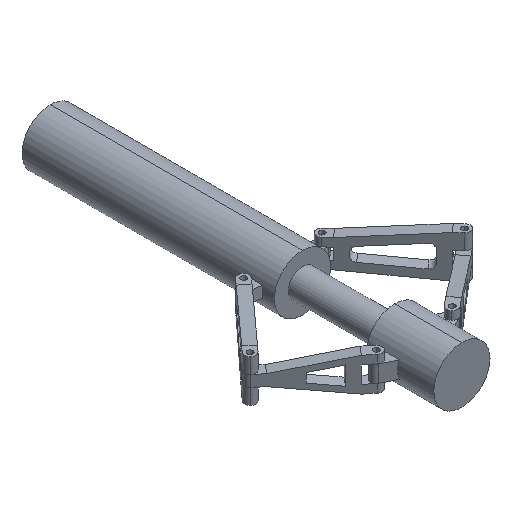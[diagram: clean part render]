
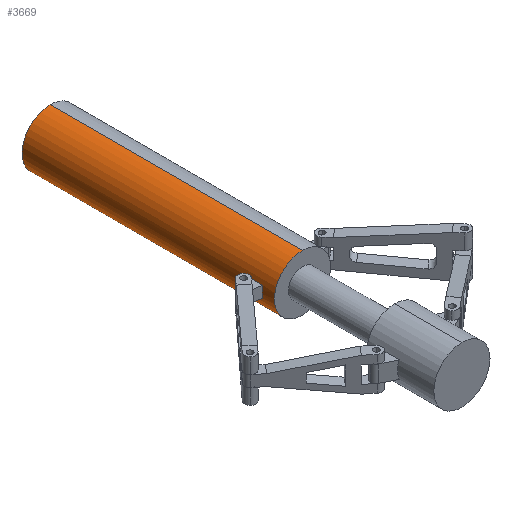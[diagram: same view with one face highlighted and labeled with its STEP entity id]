
A CAD part, isometric view. The second image highlights one B-rep face of the part: STEP entity #3669.
In plain terms, the highlighted cylindrical face has radius 50 mm (diameter 100 mm), a partial arc.
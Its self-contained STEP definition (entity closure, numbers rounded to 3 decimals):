
#11 = VERTEX_POINT ( 'NONE', #3559 ) ;
#13 = VERTEX_POINT ( 'NONE', #3561 ) ;
#14 = VERTEX_POINT ( 'NONE', #3562 ) ;
#19 = VERTEX_POINT ( 'NONE', #3567 ) ;
#25 = VERTEX_POINT ( 'NONE', #3573 ) ;
#163 = ORIENTED_EDGE ( 'NONE', *, *, #4164, .F. ) ;
#177 = ORIENTED_EDGE ( 'NONE', *, *, #4150, .F. ) ;
#181 = ORIENTED_EDGE ( 'NONE', *, *, #4178, .F. ) ;
#187 = ORIENTED_EDGE ( 'NONE', *, *, #4193, .F. ) ;
#191 = ORIENTED_EDGE ( 'NONE', *, *, #4196, .T. ) ;
#192 = ORIENTED_EDGE ( 'NONE', *, *, #4192, .T. ) ;
#197 = ORIENTED_EDGE ( 'NONE', *, *, #4198, .F. ) ;
#204 = ORIENTED_EDGE ( 'NONE', *, *, #4163, .T. ) ;
#350 = FACE_OUTER_BOUND ( 'NONE', #3185, .T. ) ;
#352 = FACE_BOUND ( 'NONE', #3208, .T. ) ;
#354 = CYLINDRICAL_SURFACE ( 'NONE', #637, 50. ) ;
#637 = AXIS2_PLACEMENT_3D ( 'NONE', #1061, #1062, #1060 ) ;
#754 = AXIS2_PLACEMENT_3D ( 'NONE', #1528, #1529, #1530 ) ;
#935 = CARTESIAN_POINT ( 'NONE',  ( 0., 225., -50. ) ) ;
#939 = CARTESIAN_POINT ( 'NONE',  ( 0., -225., -50. ) ) ;
#952 = CARTESIAN_POINT ( 'NONE',  ( -48.99, -203.493, 10. ) ) ;
#1060 = DIRECTION ( 'NONE',  ( 0., 0., -1. ) ) ;
#1061 = CARTESIAN_POINT ( 'NONE',  ( 0., 225., 0. ) ) ;
#1062 = DIRECTION ( 'NONE',  ( 0., -1., 0. ) ) ;
#1484 = CARTESIAN_POINT ( 'NONE',  ( -48.99, -203.493, -10. ) ) ;
#1485 = CARTESIAN_POINT ( 'NONE',  ( -50.341, -203.276, -3.379 ) ) ;
#1490 = CARTESIAN_POINT ( 'NONE',  ( -50.341, -203.276, 3.379 ) ) ;
#1491 = CARTESIAN_POINT ( 'NONE',  ( -48.99, -203.493, 10. ) ) ;
#1514 = CARTESIAN_POINT ( 'NONE',  ( 0., 225., -50. ) ) ;
#1518 = DIRECTION ( 'NONE',  ( 0., -1., 0. ) ) ;
#1528 = CARTESIAN_POINT ( 'NONE',  ( 0., 225., 0. ) ) ;
#1529 = DIRECTION ( 'NONE',  ( 0., 1., 0. ) ) ;
#1530 = DIRECTION ( 'NONE',  ( 0., 0., 1. ) ) ;
#1551 = DIRECTION ( 'NONE',  ( 0., -1., 0. ) ) ;
#1556 = CARTESIAN_POINT ( 'NONE',  ( 0., 225., 50. ) ) ;
#1597 = CARTESIAN_POINT ( 'NONE',  ( -48.99, -176.507, 10. ) ) ;
#1598 = CARTESIAN_POINT ( 'NONE',  ( -50.341, -176.724, 3.379 ) ) ;
#1599 = CARTESIAN_POINT ( 'NONE',  ( 0., -225., 0. ) ) ;
#1600 = DIRECTION ( 'NONE',  ( 0., 1., 0. ) ) ;
#1601 = DIRECTION ( 'NONE',  ( 0., 0., 1. ) ) ;
#1603 = CARTESIAN_POINT ( 'NONE',  ( -50.341, -176.724, -3.379 ) ) ;
#1604 = CARTESIAN_POINT ( 'NONE',  ( -48.99, -176.507, -10. ) ) ;
#1613 = CARTESIAN_POINT ( 'NONE',  ( -48.99, 225., 10. ) ) ;
#1615 = DIRECTION ( 'NONE',  ( 0., -1., 0. ) ) ;
#1617 = CARTESIAN_POINT ( 'NONE',  ( -48.99, 225., -10. ) ) ;
#1619 = DIRECTION ( 'NONE',  ( 0., -1., 0. ) ) ;
#1815 = CIRCLE ( 'NONE', #754, 50. ) ;
#1816 = LINE ( 'NONE', #1514, #1818 ) ;
#1818 = VECTOR ( 'NONE', #1518, 1000. ) ;
#1840 = LINE ( 'NONE', #1556, #1841 ) ;
#1841 = VECTOR ( 'NONE', #1551, 1000. ) ;
#1852 = CIRCLE ( 'NONE', #2425, 50. ) ;
#1856 = LINE ( 'NONE', #1613, #1858 ) ;
#1858 = VECTOR ( 'NONE', #1615, 1000. ) ;
#1859 = LINE ( 'NONE', #1617, #1862 ) ;
#1862 = VECTOR ( 'NONE', #1619, 1000. ) ;
#2425 = AXIS2_PLACEMENT_3D ( 'NONE', #1599, #1600, #1601 ) ;
#3185 = EDGE_LOOP ( 'NONE', ( #181, #163, #204, #192 ) ) ;
#3208 = EDGE_LOOP ( 'NONE', ( #177, #197, #187, #191 ) ) ;
#3419 = VERTEX_POINT ( 'NONE', #935 ) ;
#3423 = VERTEX_POINT ( 'NONE', #939 ) ;
#3437 = VERTEX_POINT ( 'NONE', #952 ) ;
#3559 = CARTESIAN_POINT ( 'NONE',  ( -48.99, -203.493, -10. ) ) ;
#3561 = CARTESIAN_POINT ( 'NONE',  ( 0., -225., 50. ) ) ;
#3562 = CARTESIAN_POINT ( 'NONE',  ( -48.99, -176.507, -10. ) ) ;
#3567 = CARTESIAN_POINT ( 'NONE',  ( 0., 225., 50. ) ) ;
#3573 = CARTESIAN_POINT ( 'NONE',  ( -48.99, -176.507, 10. ) ) ;
#3669 = ADVANCED_FACE ( 'NONE', ( #350, #352 ), #354, .T. ) ;
#3747 =( BOUNDED_CURVE ( )  B_SPLINE_CURVE ( 3, ( #1484, #1485, #1490, #1491 ),
 .UNSPECIFIED., .F., .F. ) 
 B_SPLINE_CURVE_WITH_KNOTS ( ( 4, 4 ),
 ( 2.94, 3.343 ),
 .UNSPECIFIED. ) 
 CURVE ( )  GEOMETRIC_REPRESENTATION_ITEM ( )  RATIONAL_B_SPLINE_CURVE ( ( 1., 0.987, 0.987, 1. ) ) 
 REPRESENTATION_ITEM ( '' )  );
#3765 =( BOUNDED_CURVE ( )  B_SPLINE_CURVE ( 3, ( #1597, #1598, #1603, #1604 ),
 .UNSPECIFIED., .F., .F. ) 
 B_SPLINE_CURVE_WITH_KNOTS ( ( 4, 4 ),
 ( 6.082, 6.485 ),
 .UNSPECIFIED. ) 
 CURVE ( )  GEOMETRIC_REPRESENTATION_ITEM ( )  RATIONAL_B_SPLINE_CURVE ( ( 1., 0.987, 0.987, 1. ) ) 
 REPRESENTATION_ITEM ( '' )  );
#4150 = EDGE_CURVE ( 'NONE', #11, #3437, #3747, .T. ) ;
#4163 = EDGE_CURVE ( 'NONE', #3419, #3423, #1816, .T. ) ;
#4164 = EDGE_CURVE ( 'NONE', #3419, #19, #1815, .T. ) ;
#4178 = EDGE_CURVE ( 'NONE', #19, #13, #1840, .T. ) ;
#4192 = EDGE_CURVE ( 'NONE', #3423, #13, #1852, .T. ) ;
#4193 = EDGE_CURVE ( 'NONE', #25, #14, #3765, .T. ) ;
#4196 = EDGE_CURVE ( 'NONE', #25, #3437, #1856, .T. ) ;
#4198 = EDGE_CURVE ( 'NONE', #14, #11, #1859, .T. ) ;
